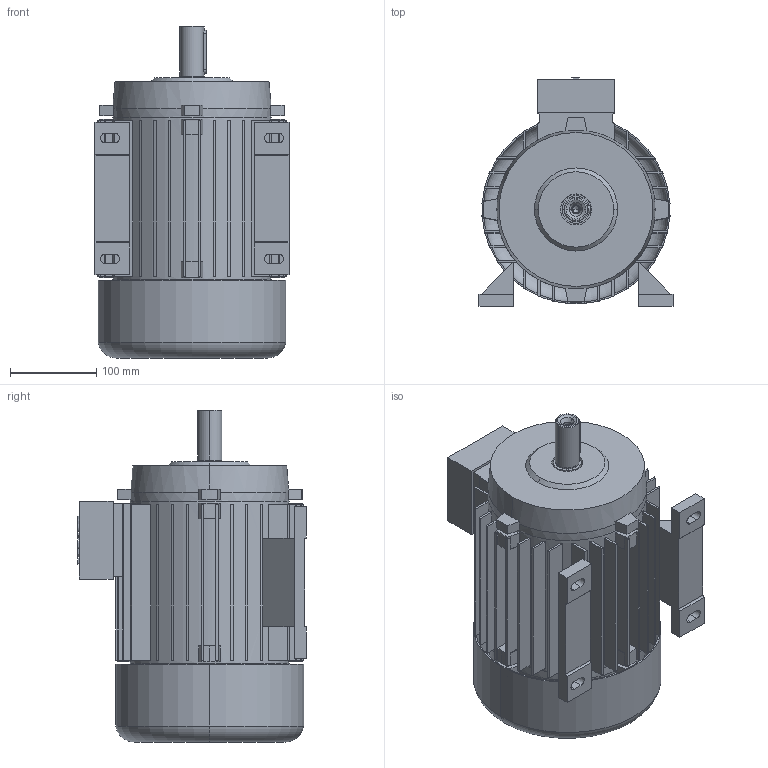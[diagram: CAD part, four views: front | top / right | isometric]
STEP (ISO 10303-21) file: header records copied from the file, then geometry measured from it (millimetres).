
FILE_DESCRIPTION (( 'STEP AP203' ), '1' );
FILE_NAME ('5AZ 112 B3 STANDK.STEP', '2017-11-10T10:53:28', ( '' ), ( '' ), 'SwSTEP 2.0', 'SolidWorks 2017', '' );
FILE_SCHEMA (( 'CONFIG_CONTROL_DESIGN' ));
Length unit declared in the file: millimetre
Products named in the file (1): 5AZ 112 B3 STANDK
Bounding box: 225 x 265 x 385 mm (x, y, z)
Volume: 3140686 mm3; surface area: 950061.5 mm2
Topology: 7 solids, 7 shells, 488 faces, 1267 edges, 837 vertices
Faces by surface type: plane 335, cylinder 118, cone 22, bspline 9, torus 4
Entity records: 15141 total; most frequent: CARTESIAN_POINT 2824, DIRECTION 2575, ORIENTED_EDGE 2530, EDGE_CURVE 1265, AXIS2_PLACEMENT_3D 868, VECTOR 839, LINE 839, VERTEX_POINT 837
